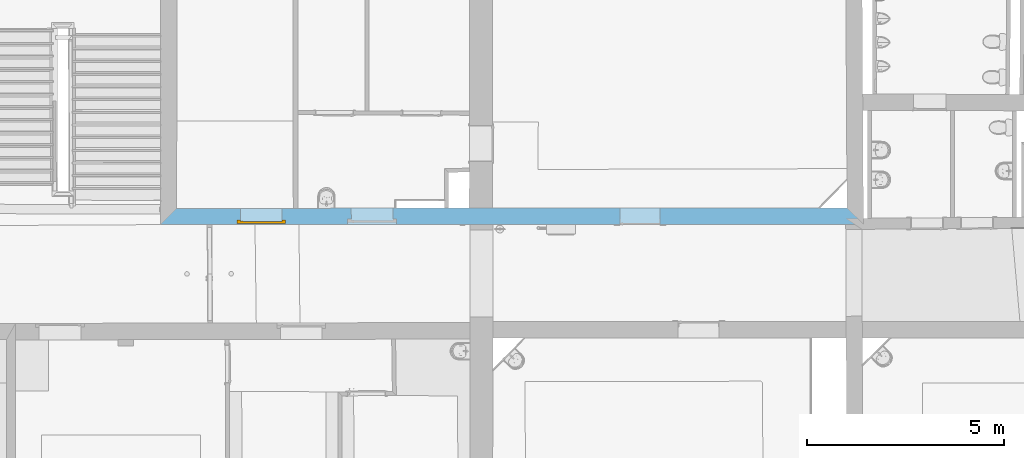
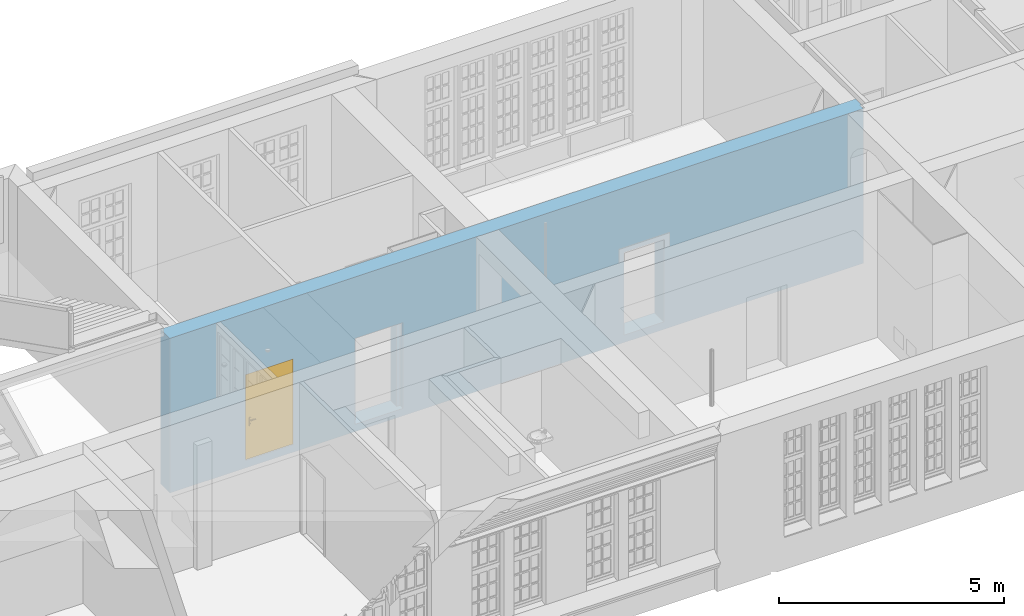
# One storey, part 46 of 90: 1 door, 3 openings, plus 1 element that does not belong to this part.
"""IFC2X3 building model written with IfcOpenShell, lengths in metres."""

from ifc_helpers import new_model, entity, si_unit, converted_unit, derived_unit, money_unit, direction, frame, origin_with_axes, origin_2d_with_axis, place, context, subcontext, project, spatial, polyline, rectangle, outline, extrude, boolean, faceted_brep, source, transform, mapped, material, type_object, element, fill, save


model = new_model("IFC2X3")

# Units and contexts
model_context = context("Model", 3, precision=1e-05, world=origin_with_axes(), true_north=direction((0.0, 1.0)))
body_context = subcontext(model_context, "Body", "Model", "MODEL_VIEW")
ifc_project = project(units=[si_unit("LENGTHUNIT", "METRE"), si_unit("AREAUNIT", "SQUARE_METRE"), si_unit("VOLUMEUNIT", "CUBIC_METRE"), converted_unit("PLANEANGLEUNIT", "DEGREE", entity("IfcPlaneAngleMeasure", 0.0174532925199), si_unit("PLANEANGLEUNIT", "RADIAN"), dimensions=[0, 0, 0, 0, 0, 0, 0]), money_unit("EUR"), converted_unit("TIMEUNIT", "Year", entity("IfcTimeMeasure", 31556926.0), si_unit("TIMEUNIT", "SECOND"), dimensions=[0, 0, 1, 0, 0, 0, 0]), si_unit("MASSUNIT", "GRAM", prefix="KILO"), si_unit("THERMODYNAMICTEMPERATUREUNIT", "DEGREE_CELSIUS"), si_unit("LUMINOUSINTENSITYUNIT", "LUMEN"), si_unit("ENERGYUNIT", "JOULE", prefix="MEGA"), derived_unit("THERMALCONDUCTANCEUNIT", [(si_unit("POWERUNIT", "WATT"), 1), (si_unit("LENGTHUNIT", "METRE"), -1), (si_unit("THERMODYNAMICTEMPERATUREUNIT", "KELVIN"), -1)]), derived_unit("SPECIFICHEATCAPACITYUNIT", [(si_unit("ENERGYUNIT", "JOULE"), 1), (si_unit("MASSUNIT", "GRAM", prefix="KILO"), -1), (si_unit("THERMODYNAMICTEMPERATUREUNIT", "KELVIN"), -1)]), derived_unit("MASSDENSITYUNIT", [(si_unit("MASSUNIT", "GRAM", prefix="KILO"), 1), (si_unit("VOLUMEUNIT", "CUBIC_METRE"), -1)])], contexts=[model_context])

# Site, building, storey
site_placement = place(None, origin_with_axes())
site = spatial("IfcSite", under=ifc_project, at=site_placement, Name="Gelände", CompositionType="ELEMENT")
building_placement = place(site_placement, origin_with_axes())
building = spatial("IfcBuilding", under=site, at=building_placement, Name="Gebäude", CompositionType="ELEMENT")
storey_placement = place(building_placement, frame((0.0, 0.0, 3.7), z_axis=(0.0, 0.0, 1.0), x_axis=(1.0, 0.0, 0.0)))
storey = spatial("IfcBuildingStorey", under=building, at=storey_placement, Name="1.OBERGESCHOSS", CompositionType="ELEMENT", Elevation=3.7)

# Wall, openings, door
ifc_material = material(Name="05_ALLGEMEIN - TRAGENDE BAUTEILE")
wall_type = type_object("IfcWallType", Name="05_ALLGEMEIN - TRAGENDE BAUTEILE 415", PredefinedType="ELEMENTEDWALL")
wall_placement = place(storey_placement, frame((-4.46533827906, 19.2762494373, -0.1), z_axis=(0.0, 0.0, 1.0), x_axis=(0.999999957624, 0.000291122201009, 0.0)))
wall = element("IfcWall", 1, at=wall_placement, inside=storey, type_object=wall_type, material=ifc_material, Name="Wand-038", ObjectType="ELEMENTEDWALL", context=body_context, shape_type="CSG", body=[
    boolean("DIFFERENCE", boolean("DIFFERENCE", extrude(outline(polyline([(-0.410000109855, 0.0), (17.4431832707, 0.0), (17.4431832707, 0.414615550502), (-0.410000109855, 0.414615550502), (-0.410000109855, 0.0)])), origin_with_axes(), (0.0, 0.0, 1.0), 4.2), faceted_brep([(-0.409696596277, 0.414615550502, 0.0), (-0.409766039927, 0.319751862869, 0.0), (-0.40959077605, 0.285260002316, 0.0), (-0.409791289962, 0.285258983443, 0.0), (-0.410000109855, 0.0, 0.0), (-0.410000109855, 0.414615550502, 0.0), (-0.409696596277, 0.414615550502, 4.2), (-0.410000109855, 0.0, 4.2), (-0.409791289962, 0.285258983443, 0.0945767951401), (-0.409766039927, 0.319751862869, 0.0945767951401), (-0.40959077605, 0.285260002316, 0.0945767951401), (-0.410000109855, 0.414615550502, 4.2)], [[[0, 1, 2, 3, 4, 5]], [[0, 6, 7, 4, 3, 8, 9, 1]], [[2, 1, 9, 10]], [[3, 2, 10, 8]], [[4, 7, 11, 5]], [[6, 0, 5, 11]], [[7, 6, 11]], [[9, 8, 10]]])), faceted_brep([(17.4022997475, 0.155036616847, 4.2), (17.4028442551, 0.0, 4.2), (17.4431832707, 0.0, 4.2), (17.4431832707, 0.414615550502, 4.2), (17.4409878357, 0.414615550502, 4.2), (17.4423609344, 0.155301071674, 4.2), (17.4028442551, 0.0, 0.0), (17.4022997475, 0.155036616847, 0.0), (17.4431832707, 0.0, 0.0), (17.4431832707, 0.414615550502, 0.0), (17.4409878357, 0.414615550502, 0.0), (17.4423609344, 0.155301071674, 0.0)], [[[0, 1, 2, 3, 4, 5]], [[6, 1, 0, 7]], [[1, 6, 8, 2]], [[2, 8, 9, 3]], [[10, 4, 3, 9]], [[5, 4, 10, 11]], [[0, 5, 11, 7]], [[11, 10, 9, 8, 6, 7]]])),
])
opening_1_placement = place(wall_placement, frame((11.7658907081, 0.0, 0.201376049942), z_axis=(0.0, 0.0, 1.0), x_axis=(1.0, 0.0, 0.0)))
element("IfcOpeningElement", 2, at=opening_1_placement, cuts=wall, Name="Tür-022", context=body_context, shape_type="SweptSolid", body=[
    extrude(rectangle(XDim=1.02378616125, YDim=2.250558, at=origin_2d_with_axis()), frame((0.0, 0.414615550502, 1.125279), z_axis=(0.0, 1.0, 0.0), x_axis=(1.0, 0.0, 0.0)), (0.0, 0.0, -1.0), 1.24384665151),
])
opening_2_placement = place(wall_placement, frame((4.96277781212, 0.0, 0.201), z_axis=(0.0, 0.0, 1.0), x_axis=(1.0, 0.0, 0.0)))
element("IfcOpeningElement", 3, at=opening_2_placement, cuts=wall, Name="Tür-022", context=body_context, shape_type="SweptSolid", body=[
    extrude(rectangle(XDim=1.05907517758, YDim=2.24387033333, at=origin_2d_with_axis()), frame((0.0, 0.14, 1.12193516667), z_axis=(0.0, 1.0, 0.0), x_axis=(1.0, 0.0, 0.0)), (0.0, 0.0, 1.0), 0.689231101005),
    extrude(rectangle(XDim=1.23907517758, YDim=2.33387033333, at=origin_2d_with_axis()), frame((0.0, 0.05, 1.16693516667), z_axis=(0.0, -1.0, 0.0), x_axis=(1.0, 0.0, 0.0)), (0.0, 0.0, -1.0), 0.09),
    extrude(rectangle(XDim=1.23907517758, YDim=2.33387033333, at=origin_2d_with_axis()), frame((0.0, 0.05, 1.16693516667), z_axis=(0.0, -1.0, 0.0), x_axis=(1.0, 0.0, 0.0)), (0.0, 0.0, 1.0), 0.464615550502),
])
opening_3_placement = place(wall_placement, frame((2.14649671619, 0.0, 0.201), z_axis=(0.0, 0.0, 1.0), x_axis=(1.0, 0.0, 0.0)))
opening_3 = element("IfcOpeningElement", 4, at=opening_3_placement, cuts=wall, Name="Tür-022", context=body_context, shape_type="SweptSolid", body=[
    extrude(rectangle(XDim=1.05907517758, YDim=2.24387033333, at=origin_2d_with_axis()), frame((0.0, 0.12, 1.12193516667), z_axis=(0.0, 1.0, 0.0), x_axis=(1.0, 0.0, 0.0)), (0.0, 0.0, 1.0), 0.709231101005),
    extrude(rectangle(XDim=1.23907517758, YDim=2.33387033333, at=origin_2d_with_axis()), frame((0.0, 0.03, 1.16693516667), z_axis=(0.0, -1.0, 0.0), x_axis=(1.0, 0.0, 0.0)), (0.0, 0.0, -1.0), 0.09),
    extrude(rectangle(XDim=1.23907517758, YDim=2.33387033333, at=origin_2d_with_axis()), frame((0.0, 0.03, 1.16693516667), z_axis=(0.0, -1.0, 0.0), x_axis=(1.0, 0.0, 0.0)), (0.0, 0.0, 1.0), 0.444615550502),
])
door_style = type_object("IfcDoorStyle", Name="Blockrahmentür 1-Fl 25", ConstructionType="NOTDEFINED", OperationType="SINGLE_SWING_LEFT", ParameterTakesPrecedence=False, Sizeable=False)
shared_shape = source(origin_with_axes(), body_context, "Body", "Brep", [
    faceted_brep([(-0.619537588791, -0.09, 0.0), (-0.619537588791, -0.09, 2.33387033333), (-0.619537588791, -0.05, 2.33387033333), (-0.619537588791, -0.05, 0.0), (-0.529537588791, -0.09, 0.0), (-0.529537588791, -0.09, 2.24387033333), (-0.1121, -0.09, 2.24387033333), (-0.0001, -0.09, 2.24387033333), (0.529537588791, -0.09, 2.24387033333), (0.529537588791, -0.09, 0.0), (0.619537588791, -0.09, 0.0), (0.619537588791, -0.09, 2.33387033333), (0.619537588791, -0.05, 2.33387033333), (0.619537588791, -0.05, 0.0), (0.529537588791, -0.05, 0.0), (0.529537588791, -0.05, 2.24387033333), (-0.0001, -0.05, 2.24387033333), (-0.1121, -0.05, 2.24387033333), (-0.529537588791, -0.05, 2.24387033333), (-0.529537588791, -0.05, 0.0)], [[[0, 1, 2, 3]], [[0, 4, 5, 6, 7, 8, 9, 10, 11, 1]], [[1, 11, 12, 2]], [[3, 2, 12, 13, 14, 15, 16, 17, 18, 19]], [[4, 0, 3, 19]], [[5, 4, 19, 18]], [[6, 5, 18, 17]], [[7, 6, 17, 16]], [[8, 7, 16, 15]], [[9, 8, 15, 14]], [[10, 9, 14, 13]], [[11, 10, 13, 12]]]),
    faceted_brep([(-0.619537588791, -0.05, 0.0), (-0.619537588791, -0.05, 2.33387033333), (-0.619537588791, 0.0, 2.33387033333), (-0.619537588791, 0.0, 0.0), (-0.541537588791, -0.05, 0.0), (-0.541537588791, -0.05, 2.25587033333), (-0.1001, -0.05, 2.25587033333), (-0.0121, -0.05, 2.25587033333), (0.541537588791, -0.05, 2.25587033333), (0.541537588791, -0.05, 0.0), (0.619537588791, -0.05, 0.0), (0.619537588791, -0.05, 2.33387033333), (0.619537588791, 0.0, 2.33387033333), (0.619537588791, 0.0, 0.0), (0.541537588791, 0.0, 0.0), (0.541537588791, 0.0, 2.25587033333), (-0.0121, 0.0, 2.25587033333), (-0.1001, 0.0, 2.25587033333), (-0.541537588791, 0.0, 2.25587033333), (-0.541537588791, 0.0, 0.0)], [[[0, 1, 2, 3]], [[0, 4, 5, 6, 7, 8, 9, 10, 11, 1]], [[1, 11, 12, 2]], [[3, 2, 12, 13, 14, 15, 16, 17, 18, 19]], [[4, 0, 3, 19]], [[5, 4, 19, 18]], [[6, 5, 18, 17]], [[7, 6, 17, 16]], [[8, 7, 16, 15]], [[9, 8, 15, 14]], [[10, 9, 14, 13]], [[11, 10, 13, 12]]]),
    faceted_brep([(-0.541537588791, -0.002, 0.0), (-0.541537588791, -0.002, 2.25587033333), (0.541537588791, -0.002, 2.25587033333), (0.541537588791, -0.002, 0.0), (-0.541537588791, -0.05, 0.0), (-0.541537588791, -0.05, 2.25587033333), (0.541537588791, -0.05, 2.25587033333), (0.541537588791, -0.05, 0.0)], [[[0, 1, 2, 3]], [[0, 4, 5, 1]], [[1, 5, 6, 2]], [[2, 6, 7, 3]], [[3, 7, 4, 0]], [[7, 6, 5, 4]]]),
    faceted_brep([(0.486239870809, -0.09, 1.05647213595), (0.486239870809, -0.07, 1.05647213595), (0.481537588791, -0.07, 1.058), (0.481537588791, -0.09, 1.058), (0.489146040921, -0.09, 1.05247213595), (0.489146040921, -0.07, 1.05247213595), (0.487415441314, -0.068, 1.05809016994), (0.481537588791, -0.068, 1.06), (0.476835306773, -0.07, 1.05647213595), (0.476835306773, -0.09, 1.05647213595), (0.473929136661, -0.09, 1.05247213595), (0.473929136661, -0.09, 1.04752786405), (0.476835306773, -0.09, 1.04352786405), (0.481537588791, -0.09, 1.042), (0.486239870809, -0.09, 1.04352786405), (0.489146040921, -0.09, 1.04752786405), (0.489146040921, -0.07, 1.04752786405), (0.491048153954, -0.068, 1.05309016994), (0.487415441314, -0.06, 1.05809016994), (0.481537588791, -0.06, 1.06), (0.475659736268, -0.068, 1.05809016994), (0.473929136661, -0.07, 1.05247213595), (0.473929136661, -0.07, 1.04752786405), (0.476835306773, -0.07, 1.04352786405), (0.481537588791, -0.07, 1.042), (0.486239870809, -0.07, 1.04352786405), (0.491048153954, -0.068, 1.04690983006), (0.491048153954, -0.06, 1.05309016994), (0.491048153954, -0.06, 1.04690983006), (0.487415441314, -0.06, 1.04190983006), (0.481537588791, -0.06, 1.04), (0.475659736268, -0.06, 1.04190983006), (0.472027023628, -0.06, 1.04690983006), (0.472027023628, -0.06, 1.05309016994), (0.475659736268, -0.06, 1.05809016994), (0.472027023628, -0.068, 1.05309016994), (0.472027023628, -0.068, 1.04690983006), (0.475659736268, -0.068, 1.04190983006), (0.481537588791, -0.068, 1.04), (0.487415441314, -0.068, 1.04190983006)], [[[0, 1, 2, 3]], [[4, 5, 1, 0]], [[1, 6, 7, 2]], [[3, 2, 8, 9]], [[3, 9, 10, 11, 12, 13, 14, 15, 4, 0]], [[15, 16, 5, 4]], [[5, 17, 6, 1]], [[6, 18, 19, 7]], [[2, 7, 20, 8]], [[9, 8, 21, 10]], [[10, 21, 22, 11]], [[11, 22, 23, 12]], [[12, 23, 24, 13]], [[13, 24, 25, 14]], [[14, 25, 16, 15]], [[16, 26, 17, 5]], [[17, 27, 18, 6]], [[19, 18, 27, 28, 29, 30, 31, 32, 33, 34]], [[7, 19, 34, 20]], [[8, 20, 35, 21]], [[21, 35, 36, 22]], [[22, 36, 37, 23]], [[23, 37, 38, 24]], [[24, 38, 39, 25]], [[25, 39, 26, 16]], [[26, 28, 27, 17]], [[39, 29, 28, 26]], [[38, 30, 29, 39]], [[37, 31, 30, 38]], [[36, 32, 31, 37]], [[35, 33, 32, 36]], [[20, 34, 33, 35]]]),
    faceted_brep([(0.469349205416, -0.06, 1.11759695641), (0.464737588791, -0.06, 1.11), (0.459037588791, -0.06, 1.11), (0.459037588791, -0.06, 0.89), (0.464737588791, -0.06, 0.89), (0.469349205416, -0.06, 0.882403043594), (0.477094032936, -0.06, 0.878044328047), (0.485981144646, -0.06, 0.878044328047), (0.493725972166, -0.06, 0.882403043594), (0.498337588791, -0.06, 0.89), (0.504037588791, -0.06, 0.89), (0.504037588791, -0.06, 1.11), (0.498337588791, -0.06, 1.11), (0.493725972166, -0.06, 1.11759695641), (0.485981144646, -0.06, 1.12195567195), (0.477094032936, -0.06, 1.12195567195), (0.481537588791, -0.06, 0.967425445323), (0.486912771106, -0.06, 0.965143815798), (0.489005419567, -0.06, 0.959692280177), (0.486537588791, -0.06, 0.9544), (0.486537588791, -0.06, 0.9375), (0.485073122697, -0.06, 0.933964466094), (0.481537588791, -0.06, 0.9325), (0.478002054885, -0.06, 0.933964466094), (0.476537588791, -0.06, 0.9375), (0.476537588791, -0.06, 0.9544), (0.474069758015, -0.06, 0.959692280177), (0.476162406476, -0.06, 0.965143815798), (0.469349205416, -0.05, 1.11759695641), (0.464737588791, -0.05, 1.11), (0.459037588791, -0.05, 1.11), (0.459037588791, -0.05, 0.89), (0.464737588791, -0.05, 0.89), (0.469349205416, -0.05, 0.882403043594), (0.477094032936, -0.05, 0.878044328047), (0.485981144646, -0.05, 0.878044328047), (0.493725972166, -0.05, 0.882403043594), (0.498337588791, -0.05, 0.89), (0.504037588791, -0.05, 0.89), (0.504037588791, -0.05, 1.11), (0.498337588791, -0.05, 1.11), (0.493725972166, -0.05, 1.11759695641), (0.485981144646, -0.05, 1.12195567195), (0.477094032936, -0.05, 1.12195567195), (0.481537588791, -0.05, 0.967425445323), (0.486912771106, -0.05, 0.965143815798), (0.489005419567, -0.05, 0.959692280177), (0.486537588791, -0.05, 0.9544), (0.486537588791, -0.05, 0.9375), (0.485073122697, -0.05, 0.933964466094), (0.481537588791, -0.05, 0.9325), (0.478002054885, -0.05, 0.933964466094), (0.476537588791, -0.05, 0.9375), (0.476537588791, -0.05, 0.9544), (0.474069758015, -0.05, 0.959692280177), (0.476162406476, -0.05, 0.965143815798)], [[[0, 1, 2, 3, 4, 5, 6, 7, 8, 9, 10, 11, 12, 13, 14, 15], [16, 17, 18, 19, 20, 21, 22, 23, 24, 25, 26, 27]], [[0, 28, 29, 1]], [[1, 29, 30, 2]], [[2, 30, 31, 3]], [[3, 31, 32, 4]], [[4, 32, 33, 5]], [[5, 33, 34, 6]], [[6, 34, 35, 7]], [[7, 35, 36, 8]], [[8, 36, 37, 9]], [[9, 37, 38, 10]], [[10, 38, 39, 11]], [[11, 39, 40, 12]], [[12, 40, 41, 13]], [[13, 41, 42, 14]], [[14, 42, 43, 15]], [[15, 43, 28, 0]], [[16, 44, 45, 17]], [[17, 45, 46, 18]], [[18, 46, 47, 19]], [[47, 48, 20, 19]], [[21, 20, 48, 49]], [[22, 21, 49, 50]], [[23, 22, 50, 51]], [[24, 23, 51, 52]], [[25, 24, 52, 53]], [[25, 53, 54, 26]], [[26, 54, 55, 27]], [[27, 55, 44, 16]], [[32, 31, 30, 29, 28, 43, 42, 41, 40, 39, 38, 37, 36, 35, 34, 33], [46, 45, 44, 55, 54, 53, 52, 51, 50, 49, 48, 47]]]),
    faceted_brep([(0.367284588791, -0.09, 1.057158), (0.367283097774, -0.09, 1.05719388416), (0.367283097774, -0.105, 1.05719388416), (0.367284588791, -0.105, 1.057158), (0.394312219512, -0.09, 1.06432652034), (0.422140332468, -0.09, 1.06706086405), (0.450046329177, -0.09, 1.06529002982), (0.477305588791, -0.09, 1.05906), (0.483708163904, -0.09, 1.05976125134), (0.489210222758, -0.09, 1.05641280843), (0.491529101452, -0.09, 1.05040385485), (0.489702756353, -0.09, 1.04422735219), (0.484488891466, -0.09, 1.04044577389), (0.478050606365, -0.09, 1.04062800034), (0.473058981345, -0.09, 1.04469843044), (0.473079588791, -0.09, 1.044666), (0.447790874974, -0.09, 1.05019878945), (0.421948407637, -0.09, 1.05171460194), (0.396186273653, -0.09, 1.04917624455), (0.371136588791, -0.09, 1.042646), (0.365593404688, -0.09, 1.04356849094), (0.362231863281, -0.09, 1.04807159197), (0.362923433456, -0.09, 1.05364829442), (0.362923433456, -0.105, 1.05364829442), (0.362231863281, -0.105, 1.04807159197), (0.365593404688, -0.105, 1.04356849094), (0.371136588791, -0.105, 1.042646), (0.396186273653, -0.105, 1.04917624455), (0.421948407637, -0.105, 1.05171460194), (0.447790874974, -0.105, 1.05019878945), (0.473079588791, -0.105, 1.044666), (0.473058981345, -0.105, 1.04469843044), (0.478050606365, -0.105, 1.04062800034), (0.484488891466, -0.105, 1.04044577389), (0.489702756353, -0.105, 1.04422735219), (0.491529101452, -0.105, 1.05040385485), (0.489210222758, -0.105, 1.05641280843), (0.483708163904, -0.105, 1.05976125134), (0.477305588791, -0.105, 1.05906), (0.450046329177, -0.105, 1.06529002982), (0.422140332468, -0.105, 1.06706086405), (0.394312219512, -0.105, 1.06432652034)], [[[0, 1, 2, 3]], [[0, 4, 5, 6, 7, 8, 9, 10, 11, 12, 13, 14, 15, 16, 17, 18, 19, 20, 21, 22, 1]], [[1, 22, 23, 2]], [[3, 2, 23, 24, 25, 26, 27, 28, 29, 30, 31, 32, 33, 34, 35, 36, 37, 38, 39, 40, 41]], [[4, 0, 3, 41]], [[5, 4, 41, 40]], [[6, 5, 40, 39]], [[7, 6, 39, 38]], [[8, 7, 38, 37]], [[9, 8, 37, 36]], [[10, 9, 36, 35]], [[11, 10, 35, 34]], [[12, 11, 34, 33]], [[13, 12, 33, 32]], [[14, 13, 32, 31]], [[15, 14, 31, 30]], [[16, 15, 30, 29]], [[17, 16, 29, 28]], [[18, 17, 28, 27]], [[19, 18, 27, 26]], [[20, 19, 26, 25]], [[21, 20, 25, 24]], [[22, 21, 24, 23]]]),
    faceted_brep([(0.486239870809, 0.038, 1.05647213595), (0.481537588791, 0.038, 1.058), (0.481537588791, 0.018, 1.058), (0.486239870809, 0.018, 1.05647213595), (0.489146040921, 0.038, 1.05247213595), (0.489146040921, 0.038, 1.04752786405), (0.486239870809, 0.038, 1.04352786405), (0.481537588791, 0.038, 1.042), (0.476835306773, 0.038, 1.04352786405), (0.473929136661, 0.038, 1.04752786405), (0.473929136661, 0.038, 1.05247213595), (0.476835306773, 0.038, 1.05647213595), (0.476835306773, 0.018, 1.05647213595), (0.481537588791, 0.016, 1.06), (0.487415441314, 0.016, 1.05809016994), (0.489146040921, 0.018, 1.05247213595), (0.489146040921, 0.018, 1.04752786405), (0.486239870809, 0.018, 1.04352786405), (0.481537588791, 0.018, 1.042), (0.476835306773, 0.018, 1.04352786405), (0.473929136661, 0.018, 1.04752786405), (0.473929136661, 0.018, 1.05247213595), (0.475659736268, 0.016, 1.05809016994), (0.481537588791, 0.008, 1.06), (0.487415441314, 0.008, 1.05809016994), (0.491048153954, 0.016, 1.05309016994), (0.491048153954, 0.016, 1.04690983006), (0.487415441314, 0.016, 1.04190983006), (0.481537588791, 0.016, 1.04), (0.475659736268, 0.016, 1.04190983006), (0.472027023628, 0.016, 1.04690983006), (0.472027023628, 0.016, 1.05309016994), (0.475659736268, 0.008, 1.05809016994), (0.472027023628, 0.008, 1.05309016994), (0.472027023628, 0.008, 1.04690983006), (0.475659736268, 0.008, 1.04190983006), (0.481537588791, 0.008, 1.04), (0.487415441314, 0.008, 1.04190983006), (0.491048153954, 0.008, 1.04690983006), (0.491048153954, 0.008, 1.05309016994)], [[[0, 1, 2, 3]], [[1, 0, 4, 5, 6, 7, 8, 9, 10, 11]], [[1, 11, 12, 2]], [[3, 2, 13, 14]], [[4, 0, 3, 15]], [[5, 4, 15, 16]], [[6, 5, 16, 17]], [[7, 6, 17, 18]], [[8, 7, 18, 19]], [[9, 8, 19, 20]], [[10, 9, 20, 21]], [[11, 10, 21, 12]], [[2, 12, 22, 13]], [[14, 13, 23, 24]], [[15, 3, 14, 25]], [[16, 15, 25, 26]], [[17, 16, 26, 27]], [[18, 17, 27, 28]], [[19, 18, 28, 29]], [[20, 19, 29, 30]], [[21, 20, 30, 31]], [[12, 21, 31, 22]], [[13, 22, 32, 23]], [[23, 32, 33, 34, 35, 36, 37, 38, 39, 24]], [[25, 14, 24, 39]], [[26, 25, 39, 38]], [[27, 26, 38, 37]], [[28, 27, 37, 36]], [[29, 28, 36, 35]], [[30, 29, 35, 34]], [[31, 30, 34, 33]], [[22, 31, 33, 32]]]),
    faceted_brep([(0.469349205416, -0.002, 1.11759695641), (0.464737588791, -0.002, 1.11), (0.459037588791, -0.002, 1.11), (0.459037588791, -0.002, 0.89), (0.464737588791, -0.002, 0.89), (0.469349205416, -0.002, 0.882403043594), (0.477094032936, -0.002, 0.878044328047), (0.485981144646, -0.002, 0.878044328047), (0.493725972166, -0.002, 0.882403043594), (0.498337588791, -0.002, 0.89), (0.504037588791, -0.002, 0.89), (0.504037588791, -0.002, 1.11), (0.498337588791, -0.002, 1.11), (0.493725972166, -0.002, 1.11759695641), (0.485981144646, -0.002, 1.12195567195), (0.477094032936, -0.002, 1.12195567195), (0.481537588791, -0.002, 0.967425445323), (0.486912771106, -0.002, 0.965143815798), (0.489005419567, -0.002, 0.959692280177), (0.486537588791, -0.002, 0.9544), (0.486537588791, -0.002, 0.9375), (0.485073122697, -0.002, 0.933964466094), (0.481537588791, -0.002, 0.9325), (0.478002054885, -0.002, 0.933964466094), (0.476537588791, -0.002, 0.9375), (0.476537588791, -0.002, 0.9544), (0.474069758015, -0.002, 0.959692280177), (0.476162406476, -0.002, 0.965143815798), (0.469349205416, 0.008, 1.11759695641), (0.464737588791, 0.008, 1.11), (0.459037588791, 0.008, 1.11), (0.459037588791, 0.008, 0.89), (0.464737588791, 0.008, 0.89), (0.469349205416, 0.008, 0.882403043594), (0.477094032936, 0.008, 0.878044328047), (0.485981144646, 0.008, 0.878044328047), (0.493725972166, 0.008, 0.882403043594), (0.498337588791, 0.008, 0.89), (0.504037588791, 0.008, 0.89), (0.504037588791, 0.008, 1.11), (0.498337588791, 0.008, 1.11), (0.493725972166, 0.008, 1.11759695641), (0.485981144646, 0.008, 1.12195567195), (0.477094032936, 0.008, 1.12195567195), (0.481537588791, 0.008, 0.967425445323), (0.486912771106, 0.008, 0.965143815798), (0.489005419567, 0.008, 0.959692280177), (0.486537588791, 0.008, 0.9544), (0.486537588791, 0.008, 0.9375), (0.485073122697, 0.008, 0.933964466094), (0.481537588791, 0.008, 0.9325), (0.478002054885, 0.008, 0.933964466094), (0.476537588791, 0.008, 0.9375), (0.476537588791, 0.008, 0.9544), (0.474069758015, 0.008, 0.959692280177), (0.476162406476, 0.008, 0.965143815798)], [[[0, 1, 2, 3, 4, 5, 6, 7, 8, 9, 10, 11, 12, 13, 14, 15], [16, 17, 18, 19, 20, 21, 22, 23, 24, 25, 26, 27]], [[28, 29, 1, 0]], [[29, 30, 2, 1]], [[30, 31, 3, 2]], [[31, 32, 4, 3]], [[32, 33, 5, 4]], [[33, 34, 6, 5]], [[34, 35, 7, 6]], [[35, 36, 8, 7]], [[36, 37, 9, 8]], [[37, 38, 10, 9]], [[38, 39, 11, 10]], [[39, 40, 12, 11]], [[40, 41, 13, 12]], [[41, 42, 14, 13]], [[42, 43, 15, 14]], [[43, 28, 0, 15]], [[16, 44, 45, 17]], [[17, 45, 46, 18]], [[18, 46, 47, 19]], [[47, 48, 20, 19]], [[21, 20, 48, 49]], [[22, 21, 49, 50]], [[23, 22, 50, 51]], [[24, 23, 51, 52]], [[25, 24, 52, 53]], [[25, 53, 54, 26]], [[26, 54, 55, 27]], [[27, 55, 44, 16]], [[32, 31, 30, 29, 28, 43, 42, 41, 40, 39, 38, 37, 36, 35, 34, 33], [46, 45, 44, 55, 54, 53, 52, 51, 50, 49, 48, 47]]]),
    faceted_brep([(0.367284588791, 0.038, 1.057158), (0.367284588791, 0.053, 1.057158), (0.367283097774, 0.053, 1.05719388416), (0.367283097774, 0.038, 1.05719388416), (0.394312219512, 0.038, 1.06432652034), (0.394312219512, 0.053, 1.06432652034), (0.422140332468, 0.053, 1.06706086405), (0.450046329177, 0.053, 1.06529002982), (0.477305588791, 0.053, 1.05906), (0.483708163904, 0.053, 1.05976125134), (0.489210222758, 0.053, 1.05641280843), (0.491529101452, 0.053, 1.05040385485), (0.489702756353, 0.053, 1.04422735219), (0.484488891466, 0.053, 1.04044577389), (0.478050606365, 0.053, 1.04062800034), (0.473058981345, 0.053, 1.04469843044), (0.473079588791, 0.053, 1.044666), (0.447790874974, 0.053, 1.05019878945), (0.421948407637, 0.053, 1.05171460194), (0.396186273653, 0.053, 1.04917624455), (0.371136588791, 0.053, 1.042646), (0.365593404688, 0.053, 1.04356849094), (0.362231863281, 0.053, 1.04807159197), (0.362923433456, 0.053, 1.05364829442), (0.362923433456, 0.038, 1.05364829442), (0.362231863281, 0.038, 1.04807159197), (0.365593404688, 0.038, 1.04356849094), (0.371136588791, 0.038, 1.042646), (0.396186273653, 0.038, 1.04917624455), (0.421948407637, 0.038, 1.05171460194), (0.447790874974, 0.038, 1.05019878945), (0.473079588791, 0.038, 1.044666), (0.473058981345, 0.038, 1.04469843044), (0.478050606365, 0.038, 1.04062800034), (0.484488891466, 0.038, 1.04044577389), (0.489702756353, 0.038, 1.04422735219), (0.491529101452, 0.038, 1.05040385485), (0.489210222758, 0.038, 1.05641280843), (0.483708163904, 0.038, 1.05976125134), (0.477305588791, 0.038, 1.05906), (0.450046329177, 0.038, 1.06529002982), (0.422140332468, 0.038, 1.06706086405)], [[[0, 1, 2, 3]], [[4, 5, 1, 0]], [[1, 5, 6, 7, 8, 9, 10, 11, 12, 13, 14, 15, 16, 17, 18, 19, 20, 21, 22, 23, 2]], [[3, 2, 23, 24]], [[0, 3, 24, 25, 26, 27, 28, 29, 30, 31, 32, 33, 34, 35, 36, 37, 38, 39, 40, 41, 4]], [[41, 6, 5, 4]], [[40, 7, 6, 41]], [[39, 8, 7, 40]], [[38, 9, 8, 39]], [[37, 10, 9, 38]], [[36, 11, 10, 37]], [[35, 12, 11, 36]], [[34, 13, 12, 35]], [[33, 14, 13, 34]], [[32, 15, 14, 33]], [[31, 16, 15, 32]], [[30, 17, 16, 31]], [[29, 18, 17, 30]], [[28, 19, 18, 29]], [[27, 20, 19, 28]], [[26, 21, 20, 27]], [[25, 22, 21, 26]], [[24, 23, 22, 25]]]),
])
door_placement = place(opening_3_placement, frame((0.529537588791, 0.0, 0.0), z_axis=(0.0, 0.0, 1.0), x_axis=(-1.0, 0.0, 0.0)))
door = element("IfcDoor", 5, at=door_placement, inside=storey, type_object=door_style, Name="Tür-022", ObjectType="NOTDEFINED", OverallHeight=2.33387, OverallWidth=1.23908, context=body_context, shape_type="MappedRepresentation", body=[
    mapped(shared_shape, transform((0.529537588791, -0.03, 0.0))),
])
fill(opening_3, door)

save(model, "model.ifc")
